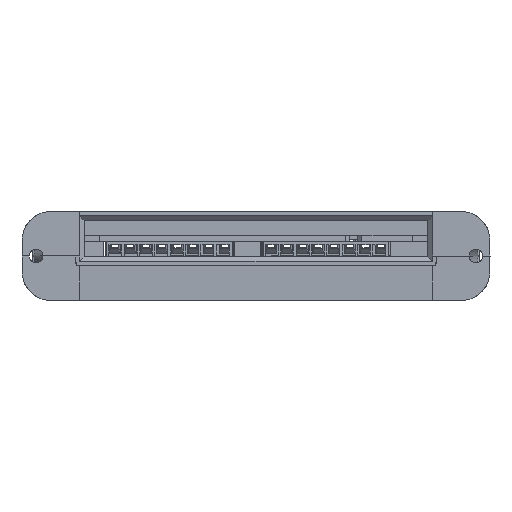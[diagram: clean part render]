
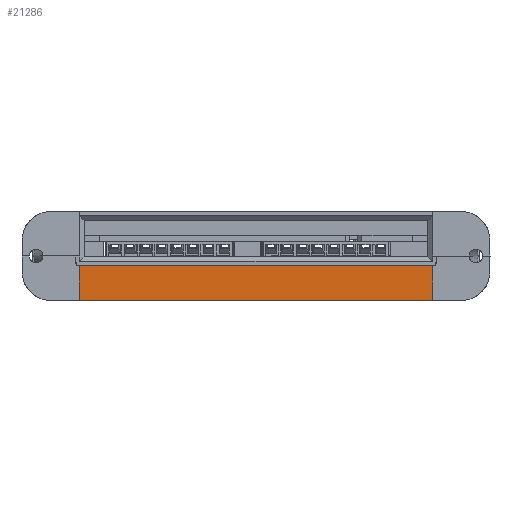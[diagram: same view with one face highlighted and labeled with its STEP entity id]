
A CAD part, left-side view. The second image highlights one B-rep face of the part: STEP entity #21286.
In plain terms, the highlighted planar face has unit normal (-1, 0, -0.018).
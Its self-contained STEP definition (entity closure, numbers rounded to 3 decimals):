
#298 = CARTESIAN_POINT ( 'NONE',  ( -9.164, -80., 8.6 ) ) ;
#3889 = PLANE ( 'NONE',  #40817 ) ;
#7421 = ORIENTED_EDGE ( 'NONE', *, *, #19057, .T. ) ;
#9915 = CARTESIAN_POINT ( 'NONE',  ( -9.014, 18.8, 0. ) ) ;
#11091 = ORIENTED_EDGE ( 'NONE', *, *, #46475, .F. ) ;
#12657 = CARTESIAN_POINT ( 'NONE',  ( -9.164, 18.8, 8.6 ) ) ;
#17718 = VERTEX_POINT ( 'NONE', #9915 ) ;
#19057 = EDGE_CURVE ( 'NONE', #51711, #23585, #19567, .T. ) ;
#19567 = LINE ( 'NONE', #31479, #31596 ) ;
#21286 = ADVANCED_FACE ( 'NONE', ( #46788 ), #3889, .T. ) ;
#21773 = CARTESIAN_POINT ( 'NONE',  ( -9.014, -68.8, 0. ) ) ;
#21973 = CARTESIAN_POINT ( 'NONE',  ( -9.206, -80., 11. ) ) ;
#22457 = CARTESIAN_POINT ( 'NONE',  ( -9.014, 30., 0. ) ) ;
#23585 = VERTEX_POINT ( 'NONE', #54358 ) ;
#24026 = VECTOR ( 'NONE', #31771, 1000. ) ;
#25150 = LINE ( 'NONE', #298, #34273 ) ;
#26593 = DIRECTION ( 'NONE',  ( 0.017, 0., -1. ) ) ;
#27867 = LINE ( 'NONE', #46580, #39797 ) ;
#30086 = ORIENTED_EDGE ( 'NONE', *, *, #44842, .T. ) ;
#31479 = CARTESIAN_POINT ( 'NONE',  ( -9.206, -68.8, 11. ) ) ;
#31596 = VECTOR ( 'NONE', #58328, 1000. ) ;
#31640 = ORIENTED_EDGE ( 'NONE', *, *, #45934, .T. ) ;
#31771 = DIRECTION ( 'NONE',  ( 0., -1., 0. ) ) ;
#32200 = EDGE_LOOP ( 'NONE', ( #30086, #7421, #31640, #11091 ) ) ;
#34273 = VECTOR ( 'NONE', #49838, 1000. ) ;
#36037 = LINE ( 'NONE', #22457, #24026 ) ;
#39797 = VECTOR ( 'NONE', #42144, 1000. ) ;
#40817 = AXIS2_PLACEMENT_3D ( 'NONE', #21973, #53426, #26593 ) ;
#42144 = DIRECTION ( 'NONE',  ( -0.017, 0., 1. ) ) ;
#44842 = EDGE_CURVE ( 'NONE', #17718, #51711, #36037, .T. ) ;
#45934 = EDGE_CURVE ( 'NONE', #23585, #53907, #25150, .T. ) ;
#46475 = EDGE_CURVE ( 'NONE', #17718, #53907, #27867, .T. ) ;
#46580 = CARTESIAN_POINT ( 'NONE',  ( -9.206, 18.8, 11. ) ) ;
#46788 = FACE_OUTER_BOUND ( 'NONE', #32200, .T. ) ;
#49838 = DIRECTION ( 'NONE',  ( 0., 1., 0. ) ) ;
#51711 = VERTEX_POINT ( 'NONE', #21773 ) ;
#53426 = DIRECTION ( 'NONE',  ( -1., 0., -0.017 ) ) ;
#53907 = VERTEX_POINT ( 'NONE', #12657 ) ;
#54358 = CARTESIAN_POINT ( 'NONE',  ( -9.164, -68.8, 8.6 ) ) ;
#58328 = DIRECTION ( 'NONE',  ( -0.017, 0., 1. ) ) ;
